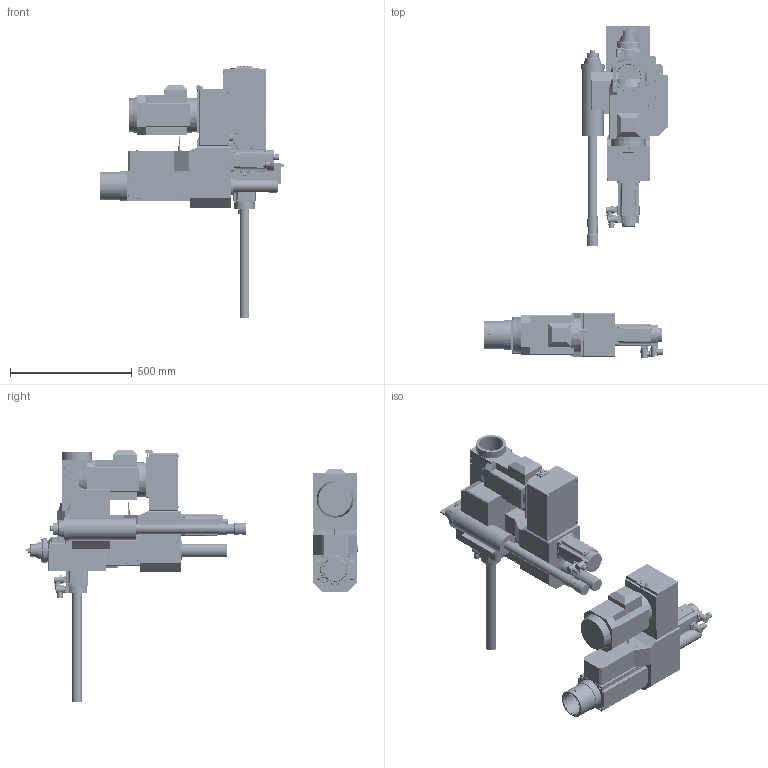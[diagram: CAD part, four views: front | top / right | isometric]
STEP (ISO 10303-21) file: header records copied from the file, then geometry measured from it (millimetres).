
FILE_DESCRIPTION( ( 'STEP AP203' ), '1' );
FILE_NAME( 'C:/Documents and Settings/Saverio/Desktop/disegni ironcad/unità serie 2/FMT 232 CN/FMT 232 CN_HSK40automatic_A.stp', '2013-12-10T10:47:29', ( ' ' ), ( ' ' ), 'XStep 1.0', ' ', ' ' );
FILE_SCHEMA( ( 'CONFIG_CONTROL_DESIGN' ) );
Length unit declared in the file: metre
Products named in the file (41): Assem1; Assem2; Assem3; 1; 2; 3; 4; 5; 6; 7; 8; 9; 10; 11; 12; 13; 14; 15; 16; 17; 18; 19; 20; 21; 22; 23; 24; 25; 26; 27; 28; 29; 30; 31; 32; 33; 34; 35; 36; 37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
Bounding box: 756.4 x 1362.82 x 1035 mm (x, y, z)
Volume: 86582843.9 mm3; surface area: 5773948 mm2
Topology: 134 solids, 137 shells, 4737 faces, 11799 edges, 7706 vertices
Faces by surface type: plane 2300, cylinder 1642, cone 637, torus 86, bspline 72
Full cylindrical faces by diameter (mm): 1 x18, 2 x12, 3 x6, 4 x23, 4.2 x15, 4.5 x48, 4.918 x6, 5 x27, 5.5 x12, 6 x30, 6.5 x3, 7 x53, 7.4 x24, 8 x30, 8.5 x12, 9.87 x3, 10 x9, 13.5 x12, 18 x3, 18.3 x3, 19 x3, 19.2 x3, 20 x24, 21.7 x6, 22.7 x6, 25 x3, 26.7 x6, 35 x3, 40 x9, 42 x3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
Entity records: 46808 total; most frequent: CARTESIAN_POINT 11491, DIRECTION 7072, ORIENTED_EDGE 6338, EDGE_CURVE 3169, AXIS2_PLACEMENT_3D 2746, VERTEX_POINT 2283, EDGE_LOOP 2030, FACE_OUTER_BOUND 1673
